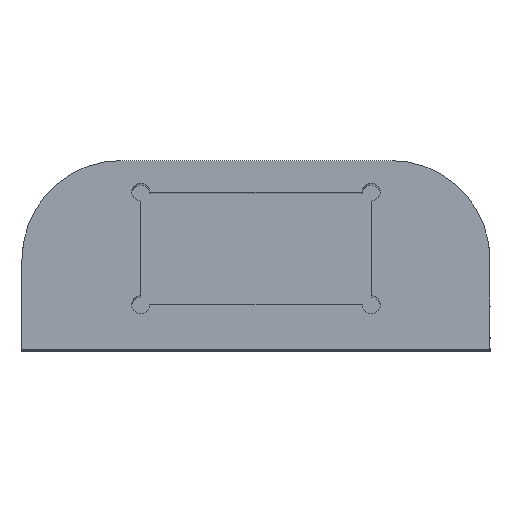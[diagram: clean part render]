
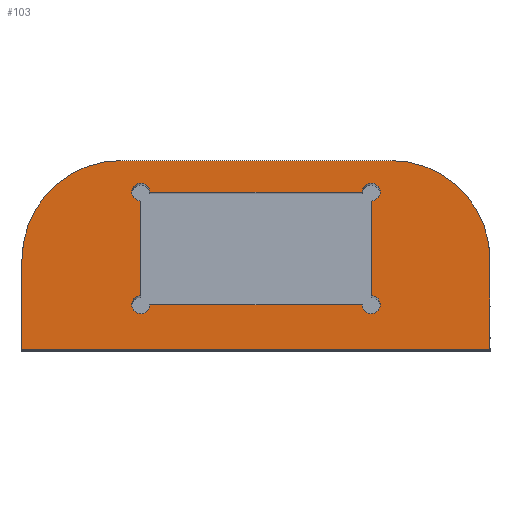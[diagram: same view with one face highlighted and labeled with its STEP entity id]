
A CAD part, top view. The second image highlights one B-rep face of the part: STEP entity #103.
In plain terms, the highlighted planar face has unit normal (0, 0, 1).
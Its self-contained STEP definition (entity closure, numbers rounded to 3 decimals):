
#103=ADVANCED_FACE('',(#498,#500),#502,.F.);
#498=FACE_BOUND('',#499,.T.);
#499=EDGE_LOOP('',(#856,#857,#858,#859,#860,#861));
#500=FACE_BOUND('',#501,.T.);
#501=EDGE_LOOP('',(#862,#863,#864,#865,#866,#867,#868,#869));
#502=PLANE('',#503);
#503=AXIS2_PLACEMENT_3D('',#504,#505,#506);
#504=CARTESIAN_POINT('',(-59.353,35.,138.866));
#505=DIRECTION('',(0.,0.,-1.));
#506=DIRECTION('',(1.,0.,0.));
#856=ORIENTED_EDGE('',*,*,#1060,.F.);
#857=ORIENTED_EDGE('',*,*,#1061,.F.);
#858=ORIENTED_EDGE('',*,*,#1062,.F.);
#859=ORIENTED_EDGE('',*,*,#1063,.F.);
#860=ORIENTED_EDGE('',*,*,#1064,.F.);
#861=ORIENTED_EDGE('',*,*,#1065,.F.);
#862=ORIENTED_EDGE('',*,*,#1066,.T.);
#863=ORIENTED_EDGE('',*,*,#1050,.F.);
#864=ORIENTED_EDGE('',*,*,#1067,.T.);
#865=ORIENTED_EDGE('',*,*,#1059,.F.);
#866=ORIENTED_EDGE('',*,*,#1068,.T.);
#867=ORIENTED_EDGE('',*,*,#1055,.F.);
#868=ORIENTED_EDGE('',*,*,#1069,.T.);
#869=ORIENTED_EDGE('',*,*,#1052,.F.);
#1050=EDGE_CURVE('',#1162,#1160,#1164,.T.);
#1052=EDGE_CURVE('',#1165,#1167,#1168,.F.);
#1055=EDGE_CURVE('',#1170,#1172,#1173,.F.);
#1059=EDGE_CURVE('',#1177,#1175,#1179,.F.);
#1060=EDGE_CURVE('',#1180,#1181,#1182,.F.);
#1061=EDGE_CURVE('',#1183,#1180,#1184,.F.);
#1062=EDGE_CURVE('',#1185,#1183,#1186,.F.);
#1063=EDGE_CURVE('',#1187,#1185,#1188,.F.);
#1064=EDGE_CURVE('',#1189,#1187,#1190,.F.);
#1065=EDGE_CURVE('',#1181,#1189,#1191,.F.);
#1066=EDGE_CURVE('',#1165,#1160,#1192,.F.);
#1067=EDGE_CURVE('',#1162,#1175,#1193,.F.);
#1068=EDGE_CURVE('',#1177,#1172,#1194,.F.);
#1069=EDGE_CURVE('',#1170,#1167,#1195,.F.);
#1160=VERTEX_POINT('',#1360);
#1162=VERTEX_POINT('',#1364);
#1164=LINE('',#1368,#1369);
#1165=VERTEX_POINT('',#1371);
#1167=VERTEX_POINT('',#1375);
#1168=LINE('',#1376,#1377);
#1170=VERTEX_POINT('',#1382);
#1172=VERTEX_POINT('',#1386);
#1173=LINE('',#1387,#1388);
#1175=VERTEX_POINT('',#1393);
#1177=VERTEX_POINT('',#1397);
#1179=LINE('',#1401,#1402);
#1180=VERTEX_POINT('',#1404);
#1181=VERTEX_POINT('',#1405);
#1182=LINE('',#1406,#1407);
#1183=VERTEX_POINT('',#1409);
#1184=CIRCLE('',#1410,11.);
#1185=VERTEX_POINT('',#1414);
#1186=LINE('',#1415,#1416);
#1187=VERTEX_POINT('',#1418);
#1188=LINE('',#1419,#1420);
#1189=VERTEX_POINT('',#1422);
#1190=LINE('',#1423,#1424);
#1191=CIRCLE('',#1426,11.);
#1192=CIRCLE('',#1430,1.);
#1193=CIRCLE('',#1434,1.);
#1194=CIRCLE('',#1438,1.);
#1195=CIRCLE('',#1442,1.);
#1360=CARTESIAN_POINT('',(-14.2,0.,138.866));
#1364=CARTESIAN_POINT('',(-37.8,0.,138.866));
#1368=CARTESIAN_POINT('',(-37.8,0.,138.866));
#1369=VECTOR('',#1370,1.);
#1370=DIRECTION('',(1.,0.,0.));
#1371=CARTESIAN_POINT('',(-13.2,1.,138.866));
#1375=CARTESIAN_POINT('',(-13.2,11.5,138.866));
#1376=CARTESIAN_POINT('',(-13.2,11.5,138.866));
#1377=VECTOR('',#1378,1.);
#1378=DIRECTION('',(0.,-1.,0.));
#1382=CARTESIAN_POINT('',(-14.2,12.5,138.866));
#1386=CARTESIAN_POINT('',(-37.8,12.5,138.866));
#1387=CARTESIAN_POINT('',(-37.8,12.5,138.866));
#1388=VECTOR('',#1389,1.);
#1389=DIRECTION('',(1.,0.,0.));
#1393=CARTESIAN_POINT('',(-38.8,1.,138.866));
#1397=CARTESIAN_POINT('',(-38.8,11.5,138.866));
#1401=CARTESIAN_POINT('',(-38.8,1.,138.866));
#1402=VECTOR('',#1403,1.);
#1403=DIRECTION('',(0.,1.,0.));
#1404=CARTESIAN_POINT('',(-41.,16.,138.866));
#1405=CARTESIAN_POINT('',(-11.,16.,138.866));
#1406=CARTESIAN_POINT('',(-11.,16.,138.866));
#1407=VECTOR('',#1408,1.);
#1408=DIRECTION('',(-1.,0.,0.));
#1409=CARTESIAN_POINT('',(-52.,5.,138.866));
#1410=AXIS2_PLACEMENT_3D('',#1411,#1412,#1413);
#1411=CARTESIAN_POINT('',(-41.,5.,138.866));
#1412=DIRECTION('',(0.,-0.,1.));
#1413=DIRECTION('',(0.,1.,0.));
#1414=CARTESIAN_POINT('',(-52.,-5.,138.866));
#1415=CARTESIAN_POINT('',(-52.,5.,138.866));
#1416=VECTOR('',#1417,1.);
#1417=DIRECTION('',(0.,-1.,0.));
#1418=CARTESIAN_POINT('',(0.,-5.,138.866));
#1419=CARTESIAN_POINT('',(-52.,-5.,138.866));
#1420=VECTOR('',#1421,1.);
#1421=DIRECTION('',(1.,0.,0.));
#1422=CARTESIAN_POINT('',(0.,5.,138.866));
#1423=CARTESIAN_POINT('',(0.,-5.,138.866));
#1424=VECTOR('',#1425,1.);
#1425=DIRECTION('',(0.,1.,0.));
#1426=AXIS2_PLACEMENT_3D('',#1427,#1428,#1429);
#1427=CARTESIAN_POINT('',(-11.,5.,138.866));
#1428=DIRECTION('',(0.,0.,1.));
#1429=DIRECTION('',(1.,0.,0.));
#1430=AXIS2_PLACEMENT_3D('',#1431,#1432,#1433);
#1431=CARTESIAN_POINT('',(-13.2,0.,138.866));
#1432=DIRECTION('',(0.,0.,1.));
#1433=DIRECTION('',(-1.,0.,0.));
#1434=AXIS2_PLACEMENT_3D('',#1435,#1436,#1437);
#1435=CARTESIAN_POINT('',(-38.8,0.,138.866));
#1436=DIRECTION('',(0.,0.,1.));
#1437=DIRECTION('',(0.,1.,0.));
#1438=AXIS2_PLACEMENT_3D('',#1439,#1440,#1441);
#1439=CARTESIAN_POINT('',(-38.8,12.5,138.866));
#1440=DIRECTION('',(0.,0.,1.));
#1441=DIRECTION('',(1.,0.,0.));
#1442=AXIS2_PLACEMENT_3D('',#1443,#1444,#1445);
#1443=CARTESIAN_POINT('',(-13.2,12.5,138.866));
#1444=DIRECTION('',(0.,0.,1.));
#1445=DIRECTION('',(0.,-1.,0.));
